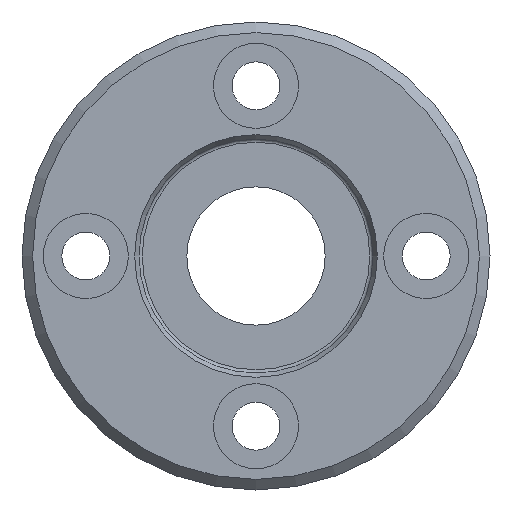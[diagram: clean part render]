
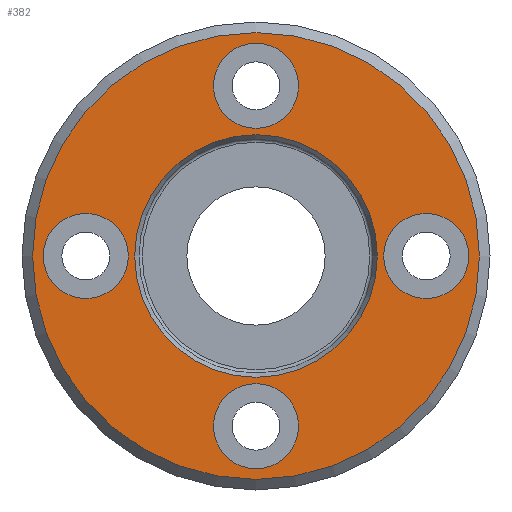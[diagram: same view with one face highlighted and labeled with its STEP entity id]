
A CAD part, left-side view. The second image highlights one B-rep face of the part: STEP entity #382.
In plain terms, the highlighted planar face has unit normal (-1, 0, 0).
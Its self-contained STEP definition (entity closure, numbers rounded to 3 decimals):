
#67=FACE_BOUND('',#122,.T.);
#68=FACE_BOUND('',#123,.T.);
#69=FACE_BOUND('',#124,.T.);
#70=FACE_BOUND('',#125,.T.);
#71=FACE_BOUND('',#126,.T.);
#92=FACE_OUTER_BOUND('',#121,.T.);
#121=EDGE_LOOP('',(#304));
#122=EDGE_LOOP('',(#305));
#123=EDGE_LOOP('',(#306));
#124=EDGE_LOOP('',(#307));
#125=EDGE_LOOP('',(#308));
#126=EDGE_LOOP('',(#309));
#152=CIRCLE('',#424,4.);
#156=CIRCLE('',#431,4.);
#160=CIRCLE('',#438,4.);
#162=CIRCLE('',#442,21.);
#166=CIRCLE('',#448,11.404);
#167=CIRCLE('',#449,4.);
#185=VERTEX_POINT('',#622);
#189=VERTEX_POINT('',#635);
#193=VERTEX_POINT('',#648);
#195=VERTEX_POINT('',#656);
#199=VERTEX_POINT('',#668);
#200=VERTEX_POINT('',#670);
#217=EDGE_CURVE('',#185,#185,#152,.T.);
#223=EDGE_CURVE('',#189,#189,#156,.T.);
#229=EDGE_CURVE('',#193,#193,#160,.T.);
#233=EDGE_CURVE('',#195,#195,#162,.T.);
#239=EDGE_CURVE('',#199,#199,#166,.T.);
#240=EDGE_CURVE('',#200,#200,#167,.T.);
#304=ORIENTED_EDGE('',*,*,#233,.F.);
#305=ORIENTED_EDGE('',*,*,#217,.T.);
#306=ORIENTED_EDGE('',*,*,#223,.T.);
#307=ORIENTED_EDGE('',*,*,#229,.T.);
#308=ORIENTED_EDGE('',*,*,#239,.F.);
#309=ORIENTED_EDGE('',*,*,#240,.T.);
#365=PLANE('',#447);
#382=ADVANCED_FACE('',(#92,#67,#68,#69,#70,#71),#365,.T.);
#424=AXIS2_PLACEMENT_3D('',#623,#489,#490);
#431=AXIS2_PLACEMENT_3D('',#636,#505,#506);
#438=AXIS2_PLACEMENT_3D('',#649,#521,#522);
#442=AXIS2_PLACEMENT_3D('',#657,#531,#532);
#447=AXIS2_PLACEMENT_3D('',#667,#543,#544);
#448=AXIS2_PLACEMENT_3D('',#669,#545,#546);
#449=AXIS2_PLACEMENT_3D('',#671,#547,#548);
#489=DIRECTION('center_axis',(1.,0.,0.));
#490=DIRECTION('ref_axis',(0.,-1.,0.));
#505=DIRECTION('center_axis',(1.,0.,0.));
#506=DIRECTION('ref_axis',(0.,0.,-1.));
#521=DIRECTION('center_axis',(1.,0.,0.));
#522=DIRECTION('ref_axis',(0.,1.,0.));
#531=DIRECTION('center_axis',(1.,0.,0.));
#532=DIRECTION('ref_axis',(0.,-1.,0.));
#543=DIRECTION('center_axis',(-1.,0.,0.));
#544=DIRECTION('ref_axis',(0.,0.,1.));
#545=DIRECTION('center_axis',(-1.,0.,0.));
#546=DIRECTION('ref_axis',(0.,0.,1.));
#547=DIRECTION('center_axis',(1.,0.,0.));
#548=DIRECTION('ref_axis',(0.,0.,1.));
#622=CARTESIAN_POINT('',(-14.,4.,16.));
#623=CARTESIAN_POINT('Origin',(-14.,0.,16.));
#635=CARTESIAN_POINT('',(-14.,-16.,4.));
#636=CARTESIAN_POINT('Origin',(-14.,-16.,0.));
#648=CARTESIAN_POINT('',(-14.,-4.,-16.));
#649=CARTESIAN_POINT('Origin',(-14.,0.,-16.));
#656=CARTESIAN_POINT('',(-14.,21.,0.));
#657=CARTESIAN_POINT('Origin',(-14.,0.,0.));
#667=CARTESIAN_POINT('Origin',(-14.,11.404,0.));
#668=CARTESIAN_POINT('',(-14.,-11.404,0.));
#669=CARTESIAN_POINT('Origin',(-14.,0.,0.));
#670=CARTESIAN_POINT('',(-14.,16.,-4.));
#671=CARTESIAN_POINT('Origin',(-14.,16.,0.));
